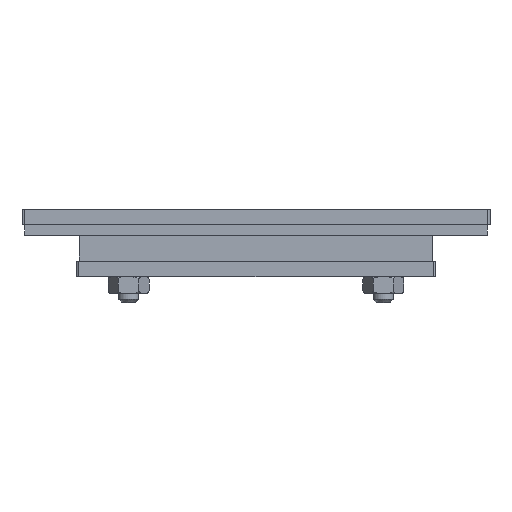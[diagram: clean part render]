
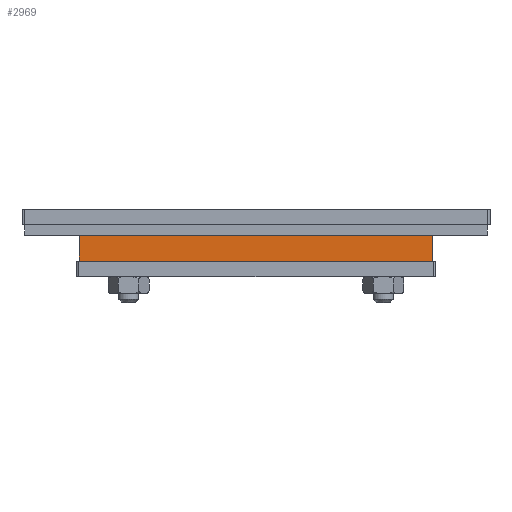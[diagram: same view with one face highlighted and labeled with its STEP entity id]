
A CAD part, left-side view. The second image highlights one B-rep face of the part: STEP entity #2969.
In plain terms, the highlighted planar face has unit normal (-1, 0, 0).
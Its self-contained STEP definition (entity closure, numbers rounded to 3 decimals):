
#159=LINE('',#4924,#221);
#161=LINE('',#4928,#223);
#162=LINE('',#4931,#224);
#163=LINE('',#4932,#225);
#221=VECTOR('',#4032,1000.);
#223=VECTOR('',#4036,1000.);
#224=VECTOR('',#4037,1000.);
#225=VECTOR('',#4038,1000.);
#618=ORIENTED_EDGE('',*,*,#1143,.F.);
#619=ORIENTED_EDGE('',*,*,#1144,.F.);
#620=ORIENTED_EDGE('',*,*,#1141,.F.);
#621=ORIENTED_EDGE('',*,*,#1145,.T.);
#1141=EDGE_CURVE('',#1450,#1451,#159,.T.);
#1143=EDGE_CURVE('',#1452,#1453,#161,.T.);
#1144=EDGE_CURVE('',#1451,#1452,#162,.T.);
#1145=EDGE_CURVE('',#1450,#1453,#163,.T.);
#1450=VERTEX_POINT('',#4923);
#1451=VERTEX_POINT('',#4925);
#1452=VERTEX_POINT('',#4929);
#1453=VERTEX_POINT('',#4930);
#2058=EDGE_LOOP('',(#618,#619,#620,#621));
#2544=FACE_BOUND('',#2058,.T.);
#2850=PLANE('',#3367);
#2969=ADVANCED_FACE('',(#2544),#2850,.T.);
#3367=AXIS2_PLACEMENT_3D('',#4927,#4034,#4035);
#4032=DIRECTION('',(0.,1.,0.));
#4034=DIRECTION('',(-1.,0.,0.));
#4035=DIRECTION('',(0.,1.,0.));
#4036=DIRECTION('',(0.,-1.,0.));
#4037=DIRECTION('',(0.,0.,1.));
#4038=DIRECTION('',(0.,0.,1.));
#4923=CARTESIAN_POINT('',(-184.,-34.,-5.));
#4924=CARTESIAN_POINT('',(-184.,-34.,-5.));
#4925=CARTESIAN_POINT('',(-184.,34.,-5.));
#4927=CARTESIAN_POINT('',(-184.,-34.,0.));
#4928=CARTESIAN_POINT('',(-184.,34.,0.));
#4929=CARTESIAN_POINT('',(-184.,34.,0.));
#4930=CARTESIAN_POINT('',(-184.,-34.,0.));
#4931=CARTESIAN_POINT('',(-184.,34.,-5.));
#4932=CARTESIAN_POINT('',(-184.,-34.,-5.));
